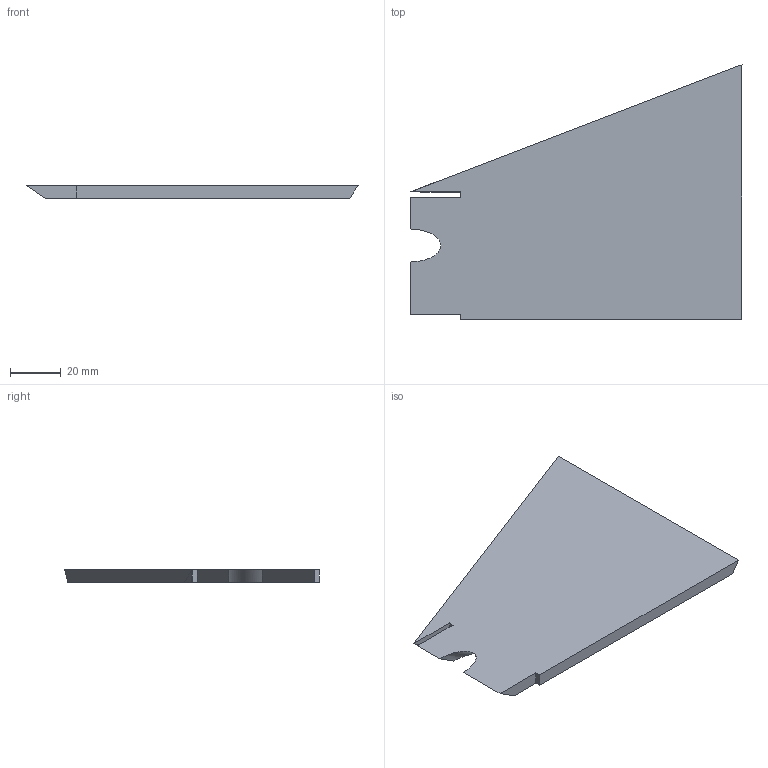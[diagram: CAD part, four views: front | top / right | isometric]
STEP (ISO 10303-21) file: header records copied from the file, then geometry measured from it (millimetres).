
FILE_DESCRIPTION(('STEP AP214'),'1');
FILE_NAME('tmp0.step','2025-04-03T13:05:17',(' '),(' '),'Spatial InterOp 3D',' ',' ');
FILE_SCHEMA(('AUTOMOTIVE_DESIGN { 1 0 10303 214 1 1 1 1 }'));
Length unit declared in the file: millimetre
Products named in the file (1): 1
Bounding box: 130.38 x 100 x 5 mm (x, y, z)
Volume: 46160.4 mm3; surface area: 21034.5 mm2
Topology: 1 solids, 1 shells, 15 faces, 38 edges, 25 vertices
Faces by surface type: plane 14, cylinder 1
Entity records: 471 total; most frequent: CARTESIAN_POINT 79, ORIENTED_EDGE 76, DIRECTION 72, EDGE_CURVE 38, LINE 36, VECTOR 36, VERTEX_POINT 25, AXIS2_PLACEMENT_3D 18
